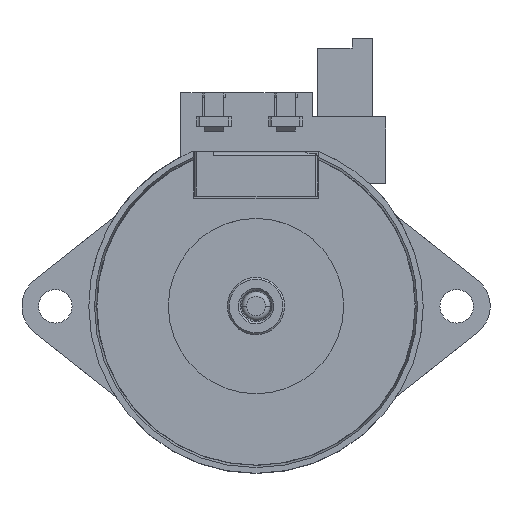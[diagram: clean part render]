
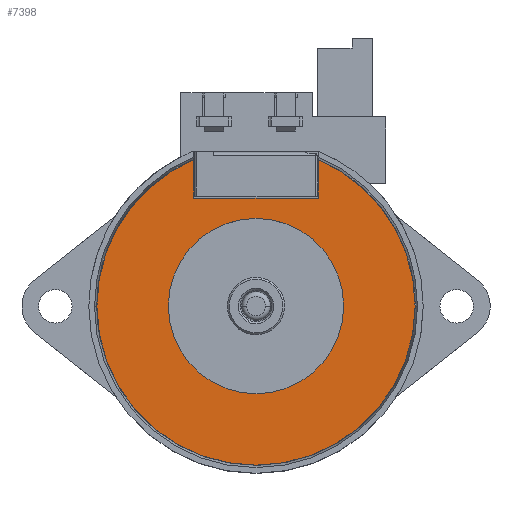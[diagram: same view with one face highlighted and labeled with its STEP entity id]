
A CAD part, top view. The second image highlights one B-rep face of the part: STEP entity #7398.
In plain terms, the highlighted planar face has unit normal (0, 0, 1).
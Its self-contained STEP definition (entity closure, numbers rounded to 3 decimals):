
#166 = CIRCLE ( 'NONE', #7234, 16.65 ) ;
#230 = DIRECTION ( 'NONE',  ( 1., 0., 0. ) ) ;
#606 = CARTESIAN_POINT ( 'NONE',  ( -6.5, 15.361, 13.4 ) ) ;
#620 = AXIS2_PLACEMENT_3D ( 'NONE', #4918, #7048, #7194 ) ;
#815 = EDGE_CURVE ( 'NONE', #8740, #5119, #9188, .T. ) ;
#826 = VERTEX_POINT ( 'NONE', #606 ) ;
#1149 = EDGE_LOOP ( 'NONE', ( #5442, #5336, #5240, #4988, #7368, #5941 ) ) ;
#1159 = DIRECTION ( 'NONE',  ( 1., 0., 0. ) ) ;
#1241 = CARTESIAN_POINT ( 'NONE',  ( 0., 9.207, 13.4 ) ) ;
#1490 = CIRCLE ( 'NONE', #6299, 9.174 ) ;
#1627 = CARTESIAN_POINT ( 'NONE',  ( -16.65, 0.033, 13.4 ) ) ;
#1818 = DIRECTION ( 'NONE',  ( 0., 0., 1. ) ) ;
#2098 = LINE ( 'NONE', #4247, #6918 ) ;
#2185 = DIRECTION ( 'NONE',  ( 0., 0., 1. ) ) ;
#2362 = EDGE_CURVE ( 'NONE', #3962, #5119, #4680, .T. ) ;
#2476 = EDGE_LOOP ( 'NONE', ( #9088, #3762 ) ) ;
#3285 = CARTESIAN_POINT ( 'NONE',  ( 9.174, 0.033, 13.4 ) ) ;
#3286 = CARTESIAN_POINT ( 'NONE',  ( 0., 0.033, 13.4 ) ) ;
#3364 = CARTESIAN_POINT ( 'NONE',  ( 0., 0.033, 13.4 ) ) ;
#3416 = EDGE_CURVE ( 'NONE', #8419, #5926, #1490, .T. ) ;
#3488 = CIRCLE ( 'NONE', #4973, 9.174 ) ;
#3579 = DIRECTION ( 'NONE',  ( 1., 0., 0. ) ) ;
#3762 = ORIENTED_EDGE ( 'NONE', *, *, #3416, .F. ) ;
#3962 = VERTEX_POINT ( 'NONE', #5912 ) ;
#4190 = CARTESIAN_POINT ( 'NONE',  ( 0., 0.033, 13.4 ) ) ;
#4247 = CARTESIAN_POINT ( 'NONE',  ( -6.5, 11.333, 13.4 ) ) ;
#4387 = VERTEX_POINT ( 'NONE', #1627 ) ;
#4677 = DIRECTION ( 'NONE',  ( 1., 0., 0. ) ) ;
#4680 = LINE ( 'NONE', #7422, #8052 ) ;
#4801 = DIRECTION ( 'NONE',  ( 0., 0., -1. ) ) ;
#4918 = CARTESIAN_POINT ( 'NONE',  ( 0., 0.033, 13.4 ) ) ;
#4973 = AXIS2_PLACEMENT_3D ( 'NONE', #3364, #6845, #1159 ) ;
#4988 = ORIENTED_EDGE ( 'NONE', *, *, #8682, .T. ) ;
#5119 = VERTEX_POINT ( 'NONE', #6529 ) ;
#5240 = ORIENTED_EDGE ( 'NONE', *, *, #5695, .T. ) ;
#5336 = ORIENTED_EDGE ( 'NONE', *, *, #8805, .F. ) ;
#5442 = ORIENTED_EDGE ( 'NONE', *, *, #6127, .F. ) ;
#5572 = AXIS2_PLACEMENT_3D ( 'NONE', #1241, #4801, #8243 ) ;
#5695 = EDGE_CURVE ( 'NONE', #826, #4387, #166, .T. ) ;
#5724 = LINE ( 'NONE', #6536, #7056 ) ;
#5791 = VERTEX_POINT ( 'NONE', #8144 ) ;
#5886 = CIRCLE ( 'NONE', #6344, 16.65 ) ;
#5912 = CARTESIAN_POINT ( 'NONE',  ( 6.5, 11.333, 13.4 ) ) ;
#5926 = VERTEX_POINT ( 'NONE', #3285 ) ;
#5941 = ORIENTED_EDGE ( 'NONE', *, *, #2362, .F. ) ;
#5952 = DIRECTION ( 'NONE',  ( 0., 1., 0. ) ) ;
#6127 = EDGE_CURVE ( 'NONE', #5791, #3962, #5724, .T. ) ;
#6299 = AXIS2_PLACEMENT_3D ( 'NONE', #3286, #8942, #6774 ) ;
#6344 = AXIS2_PLACEMENT_3D ( 'NONE', #7645, #1818, #4677 ) ;
#6529 = CARTESIAN_POINT ( 'NONE',  ( 6.5, 15.361, 13.4 ) ) ;
#6536 = CARTESIAN_POINT ( 'NONE',  ( 6.5, 11.333, 13.4 ) ) ;
#6774 = DIRECTION ( 'NONE',  ( 1., 0., 0. ) ) ;
#6787 = FACE_BOUND ( 'NONE', #2476, .T. ) ;
#6845 = DIRECTION ( 'NONE',  ( 0., 0., 1. ) ) ;
#6918 = VECTOR ( 'NONE', #7355, 1000. ) ;
#6927 = PLANE ( 'NONE',  #5572 ) ;
#7048 = DIRECTION ( 'NONE',  ( 0., 0., 1. ) ) ;
#7056 = VECTOR ( 'NONE', #230, 1000. ) ;
#7095 = CARTESIAN_POINT ( 'NONE',  ( -9.174, 0.033, 13.4 ) ) ;
#7194 = DIRECTION ( 'NONE',  ( 1., 0., 0. ) ) ;
#7234 = AXIS2_PLACEMENT_3D ( 'NONE', #4190, #2185, #3579 ) ;
#7355 = DIRECTION ( 'NONE',  ( 0., -1., 0. ) ) ;
#7368 = ORIENTED_EDGE ( 'NONE', *, *, #815, .T. ) ;
#7398 = ADVANCED_FACE ( 'NONE', ( #6787, #8432 ), #6927, .F. ) ;
#7422 = CARTESIAN_POINT ( 'NONE',  ( 6.5, 11.333, 13.4 ) ) ;
#7645 = CARTESIAN_POINT ( 'NONE',  ( 0., 0.033, 13.4 ) ) ;
#7783 = CARTESIAN_POINT ( 'NONE',  ( 16.65, 0.033, 13.4 ) ) ;
#8052 = VECTOR ( 'NONE', #5952, 1000. ) ;
#8144 = CARTESIAN_POINT ( 'NONE',  ( -6.5, 11.333, 13.4 ) ) ;
#8243 = DIRECTION ( 'NONE',  ( -1., 0., 0. ) ) ;
#8419 = VERTEX_POINT ( 'NONE', #7095 ) ;
#8432 = FACE_OUTER_BOUND ( 'NONE', #1149, .T. ) ;
#8605 = EDGE_CURVE ( 'NONE', #5926, #8419, #3488, .T. ) ;
#8682 = EDGE_CURVE ( 'NONE', #4387, #8740, #5886, .T. ) ;
#8740 = VERTEX_POINT ( 'NONE', #7783 ) ;
#8805 = EDGE_CURVE ( 'NONE', #826, #5791, #2098, .T. ) ;
#8942 = DIRECTION ( 'NONE',  ( 0., 0., 1. ) ) ;
#9088 = ORIENTED_EDGE ( 'NONE', *, *, #8605, .F. ) ;
#9188 = CIRCLE ( 'NONE', #620, 16.65 ) ;
